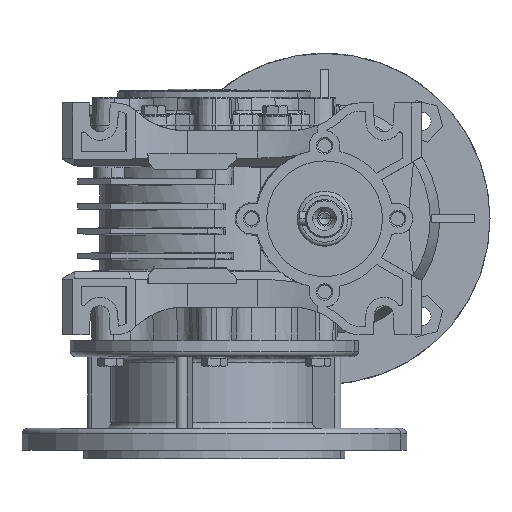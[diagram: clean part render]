
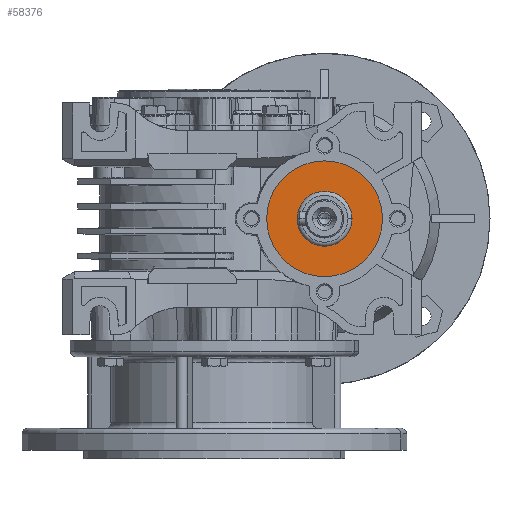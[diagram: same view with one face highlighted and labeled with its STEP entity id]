
A CAD part, left-side view. The second image highlights one B-rep face of the part: STEP entity #58376.
In plain terms, the highlighted planar face has unit normal (-1, 0, 0).
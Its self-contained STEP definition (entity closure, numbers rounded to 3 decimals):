
#1539 = DIRECTION ( 'NONE',  ( -1., 0., 0. ) ) ;
#7108 = CARTESIAN_POINT ( 'NONE',  ( -54.524, -40., 21. ) ) ;
#8410 = CIRCLE ( 'NONE', #79601, 21. ) ;
#9304 = CARTESIAN_POINT ( 'NONE',  ( -54.524, -40., 0. ) ) ;
#13677 = FACE_OUTER_BOUND ( 'NONE', #95017, .T. ) ;
#15192 = EDGE_CURVE ( 'NONE', #36332, #78574, #8410, .T. ) ;
#18767 = ORIENTED_EDGE ( 'NONE', *, *, #15192, .F. ) ;
#19521 = CIRCLE ( 'NONE', #89046, 9.975 ) ;
#20192 = AXIS2_PLACEMENT_3D ( 'NONE', #33497, #79576, #56800 ) ;
#21469 = DIRECTION ( 'NONE',  ( -1., 0., 0. ) ) ;
#25411 = EDGE_LOOP ( 'NONE', ( #98788, #59145 ) ) ;
#25862 = AXIS2_PLACEMENT_3D ( 'NONE', #92459, #21469, #84163 ) ;
#33224 = DIRECTION ( 'NONE',  ( 0., 0., 1. ) ) ;
#33497 = CARTESIAN_POINT ( 'NONE',  ( -54.524, -40., 0. ) ) ;
#33772 = CIRCLE ( 'NONE', #41963, 21. ) ;
#35149 = DIRECTION ( 'NONE',  ( 0., 0., 1. ) ) ;
#36332 = VERTEX_POINT ( 'NONE', #7108 ) ;
#41963 = AXIS2_PLACEMENT_3D ( 'NONE', #50684, #82260, #35149 ) ;
#45596 = CARTESIAN_POINT ( 'NONE',  ( -54.524, -30.025, 0. ) ) ;
#48625 = ORIENTED_EDGE ( 'NONE', *, *, #81723, .F. ) ;
#50360 = EDGE_CURVE ( 'NONE', #76672, #96102, #19521, .T. ) ;
#50684 = CARTESIAN_POINT ( 'NONE',  ( -54.524, -40., 0. ) ) ;
#54210 = CARTESIAN_POINT ( 'NONE',  ( -54.524, -40., 0. ) ) ;
#56800 = DIRECTION ( 'NONE',  ( 0., 0., 1. ) ) ;
#58376 = ADVANCED_FACE ( 'NONE', ( #76922, #13677 ), #59362, .T. ) ;
#59145 = ORIENTED_EDGE ( 'NONE', *, *, #66197, .F. ) ;
#59362 = PLANE ( 'NONE',  #25862 ) ;
#59951 = DIRECTION ( 'NONE',  ( 0., 0., 1. ) ) ;
#66197 = EDGE_CURVE ( 'NONE', #96102, #76672, #66535, .T. ) ;
#66535 = CIRCLE ( 'NONE', #20192, 9.975 ) ;
#75727 = CARTESIAN_POINT ( 'NONE',  ( -54.524, -40., -21. ) ) ;
#76672 = VERTEX_POINT ( 'NONE', #45596 ) ;
#76922 = FACE_BOUND ( 'NONE', #25411, .T. ) ;
#78574 = VERTEX_POINT ( 'NONE', #75727 ) ;
#79576 = DIRECTION ( 'NONE',  ( -1., 0., 0. ) ) ;
#79601 = AXIS2_PLACEMENT_3D ( 'NONE', #54210, #92012, #59951 ) ;
#81723 = EDGE_CURVE ( 'NONE', #78574, #36332, #33772, .T. ) ;
#82260 = DIRECTION ( 'NONE',  ( 1., 0., 0. ) ) ;
#84163 = DIRECTION ( 'NONE',  ( 0., 0., 1. ) ) ;
#89046 = AXIS2_PLACEMENT_3D ( 'NONE', #9304, #1539, #33224 ) ;
#92012 = DIRECTION ( 'NONE',  ( 1., 0., 0. ) ) ;
#92459 = CARTESIAN_POINT ( 'NONE',  ( -54.524, -40., 0. ) ) ;
#95017 = EDGE_LOOP ( 'NONE', ( #18767, #48625 ) ) ;
#96102 = VERTEX_POINT ( 'NONE', #101509 ) ;
#98788 = ORIENTED_EDGE ( 'NONE', *, *, #50360, .F. ) ;
#101509 = CARTESIAN_POINT ( 'NONE',  ( -54.524, -49.975, 0. ) ) ;
